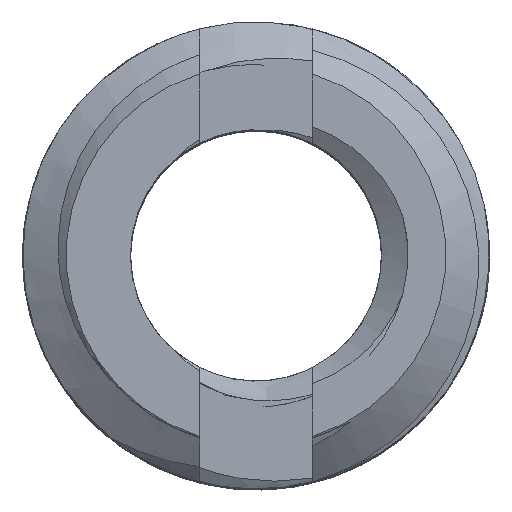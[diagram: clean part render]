
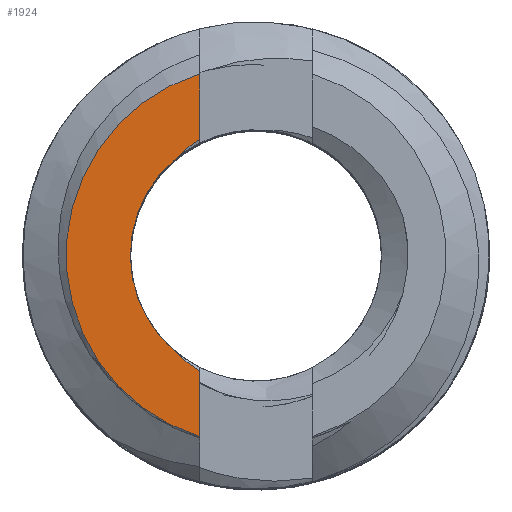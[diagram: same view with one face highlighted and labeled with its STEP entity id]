
A CAD part, top view. The second image highlights one B-rep face of the part: STEP entity #1924.
In plain terms, the highlighted planar face has unit normal (0, 0, 1).
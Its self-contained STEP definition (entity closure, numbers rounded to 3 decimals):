
#50=PLANE('',#2045);
#131=FACE_OUTER_BOUND('',#234,.T.);
#234=EDGE_LOOP('',(#1585,#1586,#1587,#1588,#1589,#1590));
#269=CIRCLE('',#2039,3.2);
#270=CIRCLE('',#2046,2.117);
#446=B_SPLINE_CURVE_WITH_KNOTS('',3,(#6219,#6220,#6221,#6222,#6223,#6224,
#6225,#6226,#6227,#6228,#6229,#6230,#6231),.UNSPECIFIED.,.F.,.F.,(4,3,3,
3,4),(0.421,0.424,0.447,0.471,
0.474),.UNSPECIFIED.);
#447=B_SPLINE_CURVE_WITH_KNOTS('',3,(#6234,#6235,#6236,#6237,#6238,#6239,
#6240,#6241,#6242,#6243),.UNSPECIFIED.,.F.,.F.,(4,3,3,4),(0.,0.023,
0.046,0.053),.UNSPECIFIED.);
#534=LINE('',#4542,#626);
#542=LINE('',#4689,#634);
#626=VECTOR('',#2257,10.);
#634=VECTOR('',#2267,10.);
#791=VERTEX_POINT('',#4537);
#792=VERTEX_POINT('',#4541);
#807=VERTEX_POINT('',#4680);
#808=VERTEX_POINT('',#4688);
#850=VERTEX_POINT('',#6218);
#851=VERTEX_POINT('',#6232);
#1046=EDGE_CURVE('',#792,#791,#534,.T.);
#1065=EDGE_CURVE('',#808,#807,#542,.T.);
#1125=EDGE_CURVE('',#791,#808,#269,.T.);
#1134=EDGE_CURVE('',#807,#850,#446,.T.);
#1135=EDGE_CURVE('',#850,#851,#270,.F.);
#1136=EDGE_CURVE('',#851,#792,#447,.T.);
#1585=ORIENTED_EDGE('',*,*,#1065,.T.);
#1586=ORIENTED_EDGE('',*,*,#1134,.T.);
#1587=ORIENTED_EDGE('',*,*,#1135,.T.);
#1588=ORIENTED_EDGE('',*,*,#1136,.T.);
#1589=ORIENTED_EDGE('',*,*,#1046,.T.);
#1590=ORIENTED_EDGE('',*,*,#1125,.T.);
#1924=ADVANCED_FACE('',(#131),#50,.T.);
#2039=AXIS2_PLACEMENT_3D('',#6154,#2308,#2309);
#2045=AXIS2_PLACEMENT_3D('',#6217,#2320,#2321);
#2046=AXIS2_PLACEMENT_3D('',#6233,#2322,#2323);
#2257=DIRECTION('',(0.,1.,0.));
#2267=DIRECTION('',(0.,1.,0.));
#2308=DIRECTION('center_axis',(0.,0.,1.));
#2309=DIRECTION('ref_axis',(-1.,0.,0.));
#2320=DIRECTION('center_axis',(0.,0.,1.));
#2321=DIRECTION('ref_axis',(1.,0.,0.));
#2322=DIRECTION('center_axis',(0.,0.,1.));
#2323=DIRECTION('ref_axis',(1.,0.,0.));
#4537=CARTESIAN_POINT('',(-0.95,3.056,15.));
#4541=CARTESIAN_POINT('',(-0.95,1.953,15.));
#4542=CARTESIAN_POINT('',(-0.95,-3.792,15.));
#4680=CARTESIAN_POINT('',(-0.95,-1.953,15.));
#4688=CARTESIAN_POINT('',(-0.95,-3.056,15.));
#4689=CARTESIAN_POINT('',(-0.95,-3.792,15.));
#6154=CARTESIAN_POINT('Origin',(0.,0.,15.));
#6217=CARTESIAN_POINT('Origin',(0.,0.,15.));
#6218=CARTESIAN_POINT('',(-1.363,-1.62,15.));
#6219=CARTESIAN_POINT('Ctrl Pts',(-0.95,-1.952,
15.));
#6220=CARTESIAN_POINT('Ctrl Pts',(-0.959,-1.947,
15.));
#6221=CARTESIAN_POINT('Ctrl Pts',(-0.968,-1.941,15.));
#6222=CARTESIAN_POINT('Ctrl Pts',(-0.977,-1.935,
15.));
#6223=CARTESIAN_POINT('Ctrl Pts',(-1.043,-1.893,15.));
#6224=CARTESIAN_POINT('Ctrl Pts',(-1.106,-1.847,15.));
#6225=CARTESIAN_POINT('Ctrl Pts',(-1.167,-1.798,15.));
#6226=CARTESIAN_POINT('Ctrl Pts',(-1.228,-1.748,15.));
#6227=CARTESIAN_POINT('Ctrl Pts',(-1.285,-1.696,15.));
#6228=CARTESIAN_POINT('Ctrl Pts',(-1.34,-1.64,15.));
#6229=CARTESIAN_POINT('Ctrl Pts',(-1.348,-1.633,15.));
#6230=CARTESIAN_POINT('Ctrl Pts',(-1.355,-1.626,15.));
#6231=CARTESIAN_POINT('Ctrl Pts',(-1.362,-1.618,15.));
#6232=CARTESIAN_POINT('',(-1.363,1.62,15.));
#6233=CARTESIAN_POINT('Origin',(0.,0.,15.));
#6234=CARTESIAN_POINT('Ctrl Pts',(-1.363,1.62,15.));
#6235=CARTESIAN_POINT('Ctrl Pts',(-1.31,1.675,15.));
#6236=CARTESIAN_POINT('Ctrl Pts',(-1.254,1.727,15.));
#6237=CARTESIAN_POINT('Ctrl Pts',(-1.195,1.776,15.));
#6238=CARTESIAN_POINT('Ctrl Pts',(-1.135,1.826,15.));
#6239=CARTESIAN_POINT('Ctrl Pts',(-1.073,1.872,15.));
#6240=CARTESIAN_POINT('Ctrl Pts',(-1.008,1.915,15.));
#6241=CARTESIAN_POINT('Ctrl Pts',(-0.989,1.928,15.));
#6242=CARTESIAN_POINT('Ctrl Pts',(-0.97,1.94,15.));
#6243=CARTESIAN_POINT('Ctrl Pts',(-0.95,1.953,15.));
